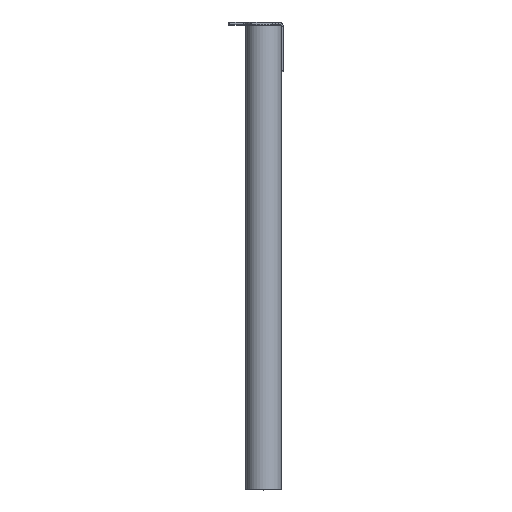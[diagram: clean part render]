
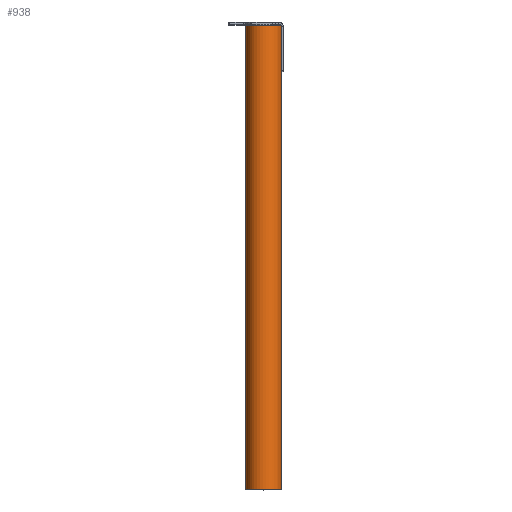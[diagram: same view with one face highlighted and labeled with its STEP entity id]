
A CAD part, top view. The second image highlights one B-rep face of the part: STEP entity #938.
In plain terms, the highlighted cylindrical face has radius 38 mm (diameter 76 mm), a full revolution.
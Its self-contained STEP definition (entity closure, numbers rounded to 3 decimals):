
#100=FACE_OUTER_BOUND('',#154,.T.);
#154=EDGE_LOOP('',(#661,#662,#663,#664));
#230=LINE('',#1510,#304);
#304=VECTOR('',#1210,38.);
#381=CIRCLE('',#1073,38.);
#382=CIRCLE('',#1074,38.);
#437=VERTEX_POINT('',#1507);
#438=VERTEX_POINT('',#1509);
#524=EDGE_CURVE('',#437,#437,#381,.T.);
#525=EDGE_CURVE('',#437,#438,#230,.T.);
#526=EDGE_CURVE('',#438,#438,#382,.T.);
#661=ORIENTED_EDGE('',*,*,#524,.F.);
#662=ORIENTED_EDGE('',*,*,#525,.T.);
#663=ORIENTED_EDGE('',*,*,#526,.T.);
#664=ORIENTED_EDGE('',*,*,#525,.F.);
#908=CYLINDRICAL_SURFACE('',#1072,38.);
#938=ADVANCED_FACE('',(#100),#908,.T.);
#1072=AXIS2_PLACEMENT_3D('',#1506,#1206,#1207);
#1073=AXIS2_PLACEMENT_3D('',#1508,#1208,#1209);
#1074=AXIS2_PLACEMENT_3D('',#1511,#1211,#1212);
#1206=DIRECTION('center_axis',(0.,1.,0.));
#1207=DIRECTION('ref_axis',(-1.,0.,0.));
#1208=DIRECTION('center_axis',(0.,1.,0.));
#1209=DIRECTION('ref_axis',(-1.,0.,0.));
#1210=DIRECTION('',(0.,-1.,0.));
#1211=DIRECTION('center_axis',(0.,1.,0.));
#1212=DIRECTION('ref_axis',(-1.,0.,0.));
#1506=CARTESIAN_POINT('Origin',(0.,0.,0.));
#1507=CARTESIAN_POINT('',(38.,1000.,0.));
#1508=CARTESIAN_POINT('Origin',(0.,1000.,0.));
#1509=CARTESIAN_POINT('',(38.,0.,0.));
#1510=CARTESIAN_POINT('',(38.,0.,0.));
#1511=CARTESIAN_POINT('Origin',(0.,0.,0.));
